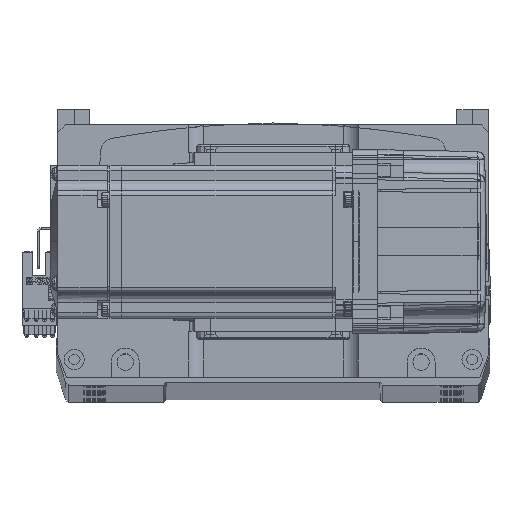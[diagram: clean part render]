
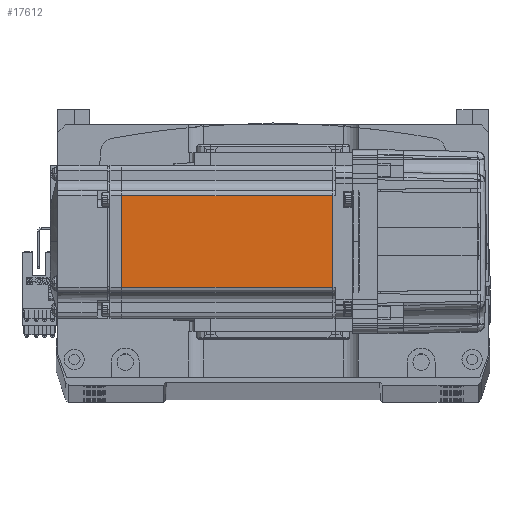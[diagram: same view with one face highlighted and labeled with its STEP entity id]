
A CAD part, top view. The second image highlights one B-rep face of the part: STEP entity #17612.
In plain terms, the highlighted planar face has unit normal (0, 0, 1).
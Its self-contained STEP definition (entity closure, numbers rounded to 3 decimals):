
#6757 = VERTEX_POINT ( 'NONE', #10450 ) ;
#10450 = CARTESIAN_POINT ( 'NONE',  ( -7.75, 18., 30. ) ) ;
#11236 = LINE ( 'NONE', #41616, #71241 ) ;
#15175 = CARTESIAN_POINT ( 'NONE',  ( -90.45, -18., 30. ) ) ;
#15992 = DIRECTION ( 'NONE',  ( 0., 0., 1. ) ) ;
#16191 = DIRECTION ( 'NONE',  ( -1., 0., 0. ) ) ;
#16346 = ORIENTED_EDGE ( 'NONE', *, *, #34933, .F. ) ;
#17200 = EDGE_LOOP ( 'NONE', ( #16346, #71678, #58217, #35939 ) ) ;
#17612 = ADVANCED_FACE ( 'NONE', ( #68643 ), #67050, .T. ) ;
#19384 = AXIS2_PLACEMENT_3D ( 'NONE', #56029, #15992, #43814 ) ;
#19570 = VERTEX_POINT ( 'NONE', #15175 ) ;
#23849 = EDGE_CURVE ( 'NONE', #32813, #19570, #29590, .T. ) ;
#24586 = DIRECTION ( 'NONE',  ( 0., -1., 0. ) ) ;
#29590 = LINE ( 'NONE', #55411, #71633 ) ;
#32813 = VERTEX_POINT ( 'NONE', #61903 ) ;
#34010 = CARTESIAN_POINT ( 'NONE',  ( -6.5, 18., 30. ) ) ;
#34933 = EDGE_CURVE ( 'NONE', #6757, #32813, #11236, .T. ) ;
#35939 = ORIENTED_EDGE ( 'NONE', *, *, #23849, .F. ) ;
#36385 = LINE ( 'NONE', #34010, #39024 ) ;
#37796 = VERTEX_POINT ( 'NONE', #40773 ) ;
#39024 = VECTOR ( 'NONE', #16191, 1000. ) ;
#40773 = CARTESIAN_POINT ( 'NONE',  ( -90.45, 18., 30. ) ) ;
#41616 = CARTESIAN_POINT ( 'NONE',  ( -7.75, 0., 30. ) ) ;
#43814 = DIRECTION ( 'NONE',  ( 1., 0., 0. ) ) ;
#55411 = CARTESIAN_POINT ( 'NONE',  ( -6.5, -18., 30. ) ) ;
#56029 = CARTESIAN_POINT ( 'NONE',  ( -6.5, -25., 30. ) ) ;
#56688 = EDGE_CURVE ( 'NONE', #37796, #19570, #65059, .T. ) ;
#58217 = ORIENTED_EDGE ( 'NONE', *, *, #56688, .T. ) ;
#61903 = CARTESIAN_POINT ( 'NONE',  ( -7.75, -18., 30. ) ) ;
#65059 = LINE ( 'NONE', #68683, #69561 ) ;
#65895 = DIRECTION ( 'NONE',  ( -1., 0., 0. ) ) ;
#67050 = PLANE ( 'NONE',  #19384 ) ;
#67338 = EDGE_CURVE ( 'NONE', #6757, #37796, #36385, .T. ) ;
#68643 = FACE_OUTER_BOUND ( 'NONE', #17200, .T. ) ;
#68683 = CARTESIAN_POINT ( 'NONE',  ( -90.45, 0., 30. ) ) ;
#69561 = VECTOR ( 'NONE', #74134, 1000. ) ;
#71241 = VECTOR ( 'NONE', #24586, 1000. ) ;
#71633 = VECTOR ( 'NONE', #65895, 1000. ) ;
#71678 = ORIENTED_EDGE ( 'NONE', *, *, #67338, .T. ) ;
#74134 = DIRECTION ( 'NONE',  ( 0., -1., 0. ) ) ;
